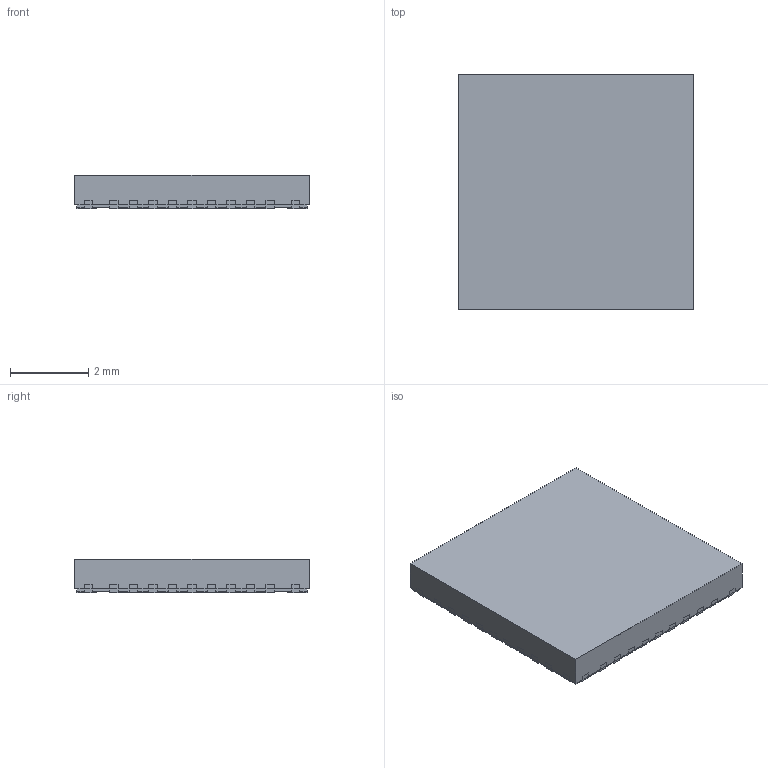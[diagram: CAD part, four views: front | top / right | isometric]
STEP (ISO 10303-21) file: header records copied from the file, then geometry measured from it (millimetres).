
FILE_DESCRIPTION (( 'STEP AP214' ), '1' );
FILE_NAME ('EV36.STEP', '2018-09-19T14:48:42', ( '' ), ( '' ), 'SwSTEP 2.0', 'SolidWorks 2017', '' );
FILE_SCHEMA (( 'AUTOMOTIVE_DESIGN' ));
Length unit declared in the file: millimetre
Products named in the file (1): EV36
Bounding box: 6 x 6 x 0.85 mm (x, y, z)
Volume: 30.1 mm3; surface area: 93.5 mm2
Topology: 1 solids, 1 shells, 426 faces, 1093 edges, 670 vertices
Faces by surface type: plane 375, cylinder 51
Entity records: 13623 total; most frequent: CARTESIAN_POINT 2190, ORIENTED_EDGE 2186, DIRECTION 2049, EDGE_CURVE 1093, VECTOR 991, LINE 991, VERTEX_POINT 670, AXIS2_PLACEMENT_3D 529
